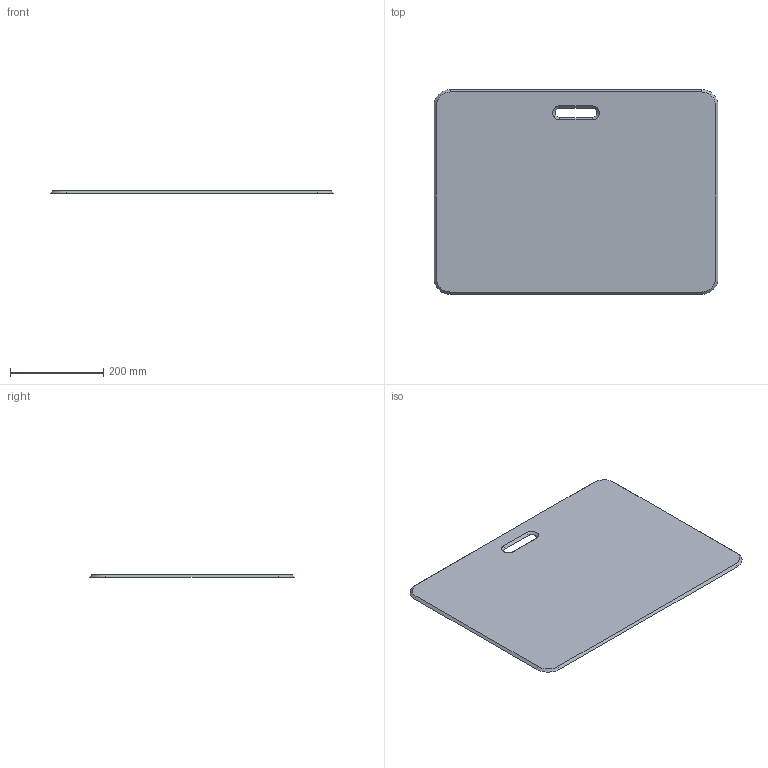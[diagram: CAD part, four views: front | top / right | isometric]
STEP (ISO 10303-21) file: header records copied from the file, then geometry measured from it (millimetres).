
FILE_DESCRIPTION(/* description */ (''),/* implementation_level */ '2;1');
FILE_NAME(/* name */ 'Secondo piano',/* time_stamp */ '2025-07-10T12:24:53+02:00',/* author */ (''),/* organization */ (''),/* preprocessor_version */ 'ST-DEVELOPER v16.5',/* originating_system */ 'Rhino 7.37',/* authorisation */ '');
FILE_SCHEMA (('AUTOMOTIVE_DESIGN'));
Length unit declared in the file: millimetre
Products named in the file (1): Document
Bounding box: 610 x 440 x 5 mm (x, y, z)
Volume: 1300125.8 mm3; surface area: 535902.7 mm2
Topology: 1 solids, 1 shells, 14 faces, 36 edges, 24 vertices
Faces by surface type: plane 8, bspline 6
Entity records: 494 total; most frequent: CARTESIAN_POINT 234, ORIENTED_EDGE 72, EDGE_CURVE 36, B_SPLINE_CURVE_WITH_KNOTS 24, VERTEX_POINT 24, EDGE_LOOP 16, ADVANCED_FACE 14, FACE_OUTER_BOUND 14
